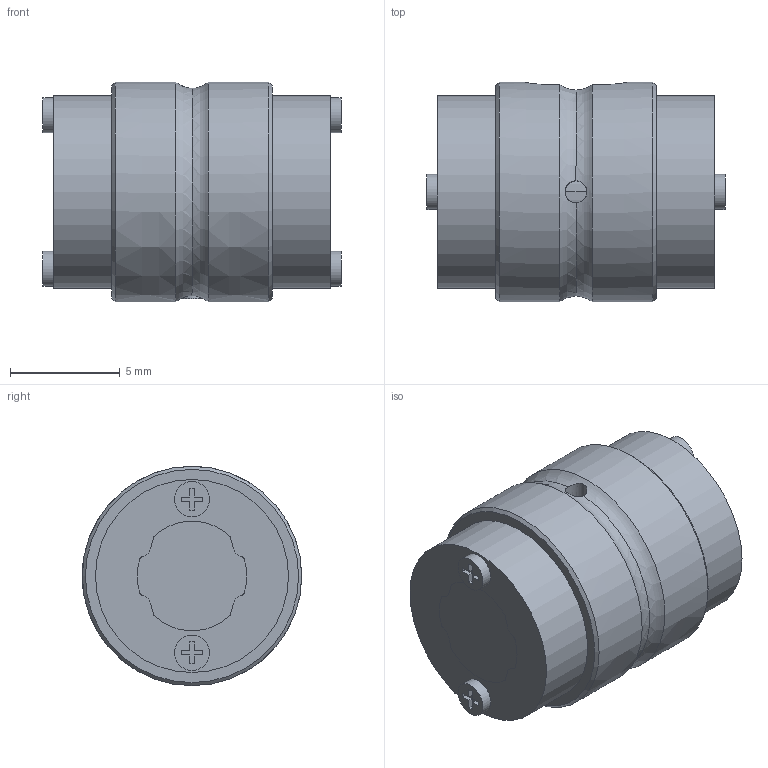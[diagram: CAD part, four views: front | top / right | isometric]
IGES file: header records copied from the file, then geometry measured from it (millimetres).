
Start section: Data from Parasolid IGES Translator 26.0.171, Copyright(c) 2006 Siemens PLM Software. All Rights Reserved.
Global section: file name: LT5X+12.6L(00).igs; native system: By Siemens PLM Incorporated; preprocessor: XPlus GENERIC/IGES 26.0.171; author: Noname; organization: Noname; date: 20240528.070648; units: millimetre
Bounding box: 13.6 x 10 x 10 mm (x, y, z)
Surface area: 976.1 mm2 (no closed solid volume)
Topology: 0 solids, 0 shells, 125 faces, 686 edges, 670 vertices
Faces by surface type: extrusion 73, revolution 52
